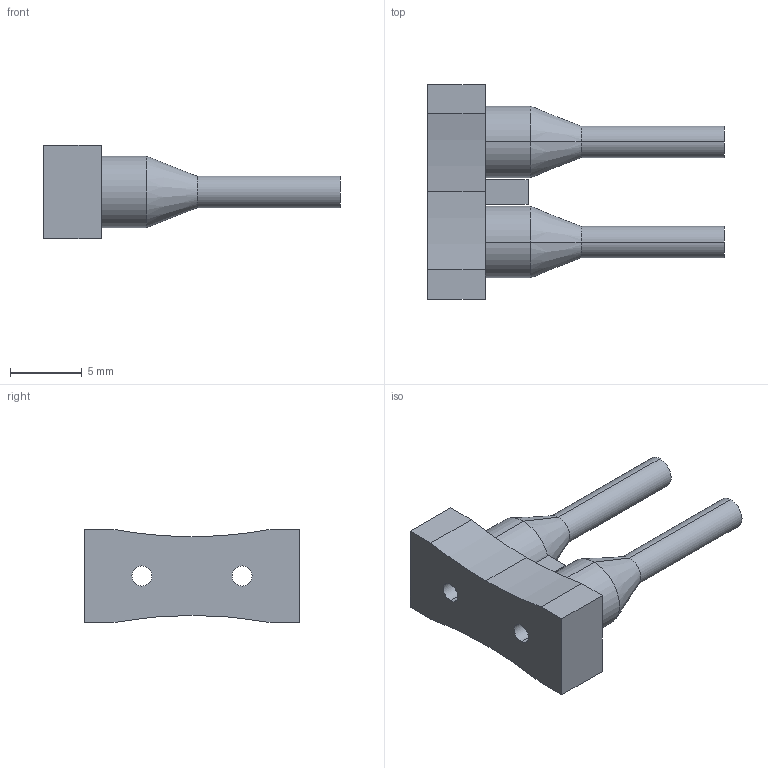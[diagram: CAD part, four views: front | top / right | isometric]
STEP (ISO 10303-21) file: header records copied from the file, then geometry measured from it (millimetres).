
FILE_DESCRIPTION (( 'STEP AP203' ), '1' );
FILE_NAME ('FX-AT5.STEP', '2005-09-08T04:11:42', ( '' ), ( '' ), 'SwSTEP 2.0', 'SolidWorks 2004073', '' );
FILE_SCHEMA (( 'CONFIG_CONTROL_DESIGN' ));
Length unit declared in the file: millimetre
Products named in the file (1): FX-AT5
Bounding box: 20.7 x 15 x 6.5 mm (x, y, z)
Volume: 583.9 mm3; surface area: 843.4 mm2
Topology: 1 solids, 1 shells, 34 faces, 79 edges, 50 vertices
Faces by surface type: cylinder 15, plane 15, cone 4
Entity records: 1054 total; most frequent: DIRECTION 179, CARTESIAN_POINT 164, ORIENTED_EDGE 158, EDGE_CURVE 79, AXIS2_PLACEMENT_3D 65, VERTEX_POINT 50, LINE 49, VECTOR 49
